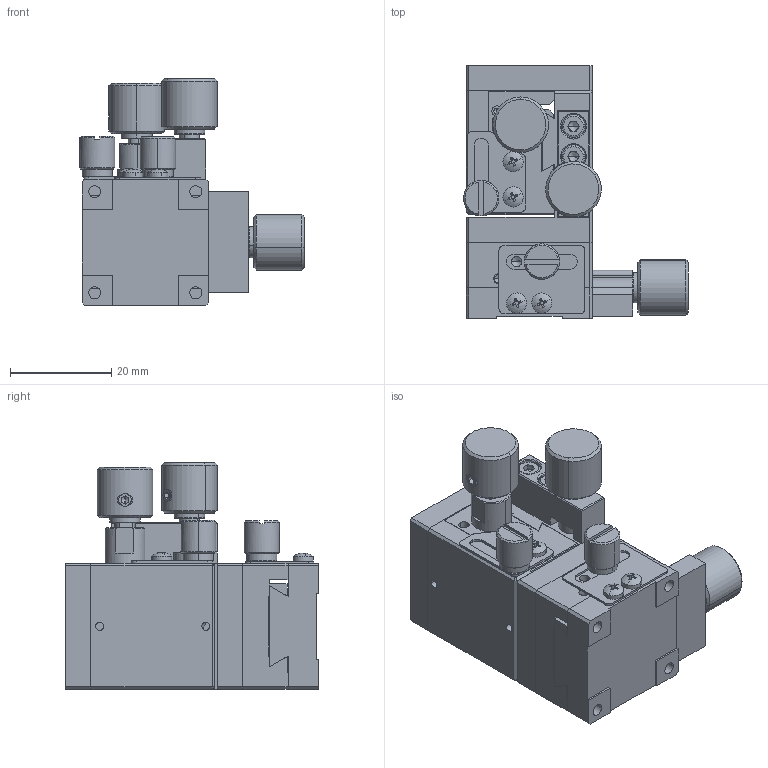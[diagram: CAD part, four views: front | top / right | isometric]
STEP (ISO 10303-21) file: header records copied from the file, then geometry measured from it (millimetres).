
FILE_DESCRIPTION (( 'STEP AP203' ), '1' );
FILE_NAME ('BWED25.STEP', '2024-02-26T12:22:16', ( 'China' ), ( 'Microsoft' ), 'SwSTEP 2.0', 'SolidWorks 2024', '' );
FILE_SCHEMA (( 'CONFIG_CONTROL_DESIGN' ));
Products named in the file (1): BWED25
Bounding box: 44.5 x 50 x 44.9 mm (x, y, z)
Volume: 33459.7 mm3; surface area: 27968.9 mm2
Topology: 36 solids, 36 shells, 1392 faces, 3569 edges, 2259 vertices
Faces by surface type: plane 671, cylinder 407, cone 205, bspline 89, torus 12, sphere 8
Entity records: 137511 total; most frequent: CARTESIAN_POINT 104626, ORIENTED_EDGE 6994, DIRECTION 6552, EDGE_CURVE 3497, AXIS2_PLACEMENT_3D 2314, VERTEX_POINT 2259, VECTOR 1924, LINE 1924
